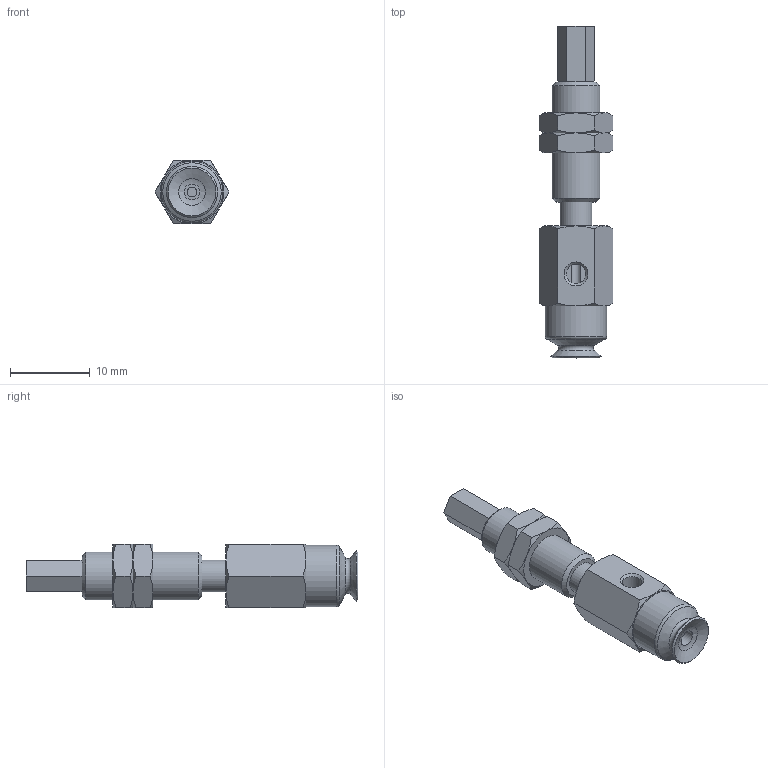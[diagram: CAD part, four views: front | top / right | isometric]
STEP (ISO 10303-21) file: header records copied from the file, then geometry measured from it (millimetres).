
FILE_DESCRIPTION(('STEP AP203'),'1');
FILE_NAME('.stp','2025-04-09T05:36:06',(' '),(' '),'Spatial InterOp 3D',' ',' ');
FILE_SCHEMA(('CONFIG_CONTROL_DESIGN'));
Length unit declared in the file: millimetre
Products named in the file (6): BNABPFYS-6A-3-※; CONNECTOR-6A-3; Nut-6A-3-s; NAPFTS-6A-3-FBODY; NAPFTS-6A-3-MBODY; BPFG-6A-※
Assembly tree (6 placements, depth 2):
  BNABPFYS-6A-3-※
    CONNECTOR-6A-3
    Nut-6A-3-s  x2
    NAPFTS-6A-3-FBODY
    NAPFTS-6A-3-MBODY
    BPFG-6A-※
Bounding box: 9.24 x 41.5 x 8 mm (x, y, z)
Volume: 1445 mm3; surface area: 2179 mm2
Topology: 6 solids, 6 shells, 131 faces, 279 edges, 166 vertices
Faces by surface type: plane 56, cone 52, cylinder 15, torus 7, bspline 1
Full cylindrical faces by diameter (mm): 1.2 x1, 2 x1, 2.459 x2, 3 x1, 4 x4, 5.188 x2, 6 x3, 7.7 x1
Entity records: 3193 total; most frequent: CARTESIAN_POINT 780, DIRECTION 442, ORIENTED_EDGE 378, AXIS2_PLACEMENT_3D 193, EDGE_CURVE 189, EDGE_LOOP 158, VERTEX_POINT 131, FACE_OUTER_BOUND 130
